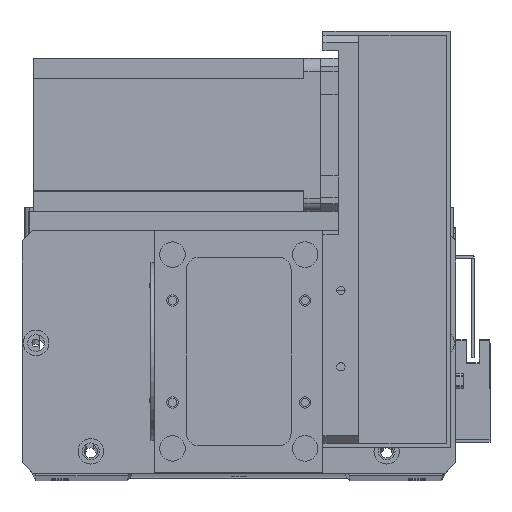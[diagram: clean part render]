
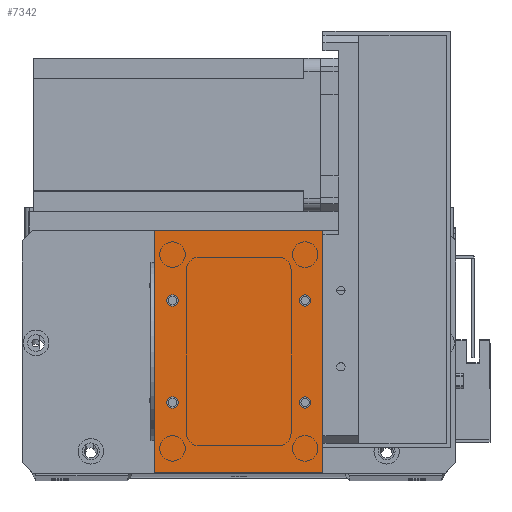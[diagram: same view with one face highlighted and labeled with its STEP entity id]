
A CAD part, top view. The second image highlights one B-rep face of the part: STEP entity #7342.
In plain terms, the highlighted planar face has unit normal (0, 0, 1).
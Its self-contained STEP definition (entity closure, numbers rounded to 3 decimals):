
#63 = DIRECTION ( 'NONE',  ( 0., 0., 1. ) ) ;
#275 = FACE_BOUND ( 'NONE', #9237, .T. ) ;
#356 = DIRECTION ( 'NONE',  ( 0., 0., 1. ) ) ;
#433 = VERTEX_POINT ( 'NONE', #22780 ) ;
#542 = DIRECTION ( 'NONE',  ( 1., 0., 0. ) ) ;
#933 = EDGE_LOOP ( 'NONE', ( #17493, #8584 ) ) ;
#1317 = CIRCLE ( 'NONE', #16807, 2.25 ) ;
#2021 = AXIS2_PLACEMENT_3D ( 'NONE', #31445, #16767, #2066 ) ;
#2066 = DIRECTION ( 'NONE',  ( 1., 0., 0. ) ) ;
#2483 = CARTESIAN_POINT ( 'NONE',  ( 66., 0., 2. ) ) ;
#2764 = CARTESIAN_POINT ( 'NONE',  ( 4.75, 27.5, 2. ) ) ;
#2843 = DIRECTION ( 'NONE',  ( 0., 0., -1. ) ) ;
#3187 = EDGE_LOOP ( 'NONE', ( #19373, #19758, #8711, #29259 ) ) ;
#4142 = CARTESIAN_POINT ( 'NONE',  ( 4.75, 67.5, 2. ) ) ;
#4764 = VECTOR ( 'NONE', #29544, 1000. ) ;
#5289 = FACE_BOUND ( 'NONE', #29976, .T. ) ;
#5395 = CIRCLE ( 'NONE', #16953, 2.25 ) ;
#5478 = VECTOR ( 'NONE', #11127, 1000. ) ;
#5760 = CARTESIAN_POINT ( 'NONE',  ( 66., 95., 2. ) ) ;
#5805 = VERTEX_POINT ( 'NONE', #5760 ) ;
#5892 = CIRCLE ( 'NONE', #28417, 2.25 ) ;
#6346 = CIRCLE ( 'NONE', #7004, 2.25 ) ;
#6362 = CIRCLE ( 'NONE', #13406, 2.25 ) ;
#6666 = ORIENTED_EDGE ( 'NONE', *, *, #18171, .F. ) ;
#6824 = EDGE_CURVE ( 'NONE', #10485, #9965, #1317, .T. ) ;
#6989 = CARTESIAN_POINT ( 'NONE',  ( 0., 0., 2. ) ) ;
#7004 = AXIS2_PLACEMENT_3D ( 'NONE', #26984, #12329, #29454 ) ;
#7097 = CARTESIAN_POINT ( 'NONE',  ( 9.25, 67.5, 2. ) ) ;
#7205 = ORIENTED_EDGE ( 'NONE', *, *, #29908, .F. ) ;
#7342 = ADVANCED_FACE ( 'NONE', ( #275, #18343, #19091, #5289, #30598 ), #12657, .F. ) ;
#7617 = CARTESIAN_POINT ( 'NONE',  ( 66., 0., 2. ) ) ;
#7773 = EDGE_LOOP ( 'NONE', ( #11160, #7205 ) ) ;
#7887 = DIRECTION ( 'NONE',  ( 0., 0., 1. ) ) ;
#8038 = CARTESIAN_POINT ( 'NONE',  ( 0., 0., 2. ) ) ;
#8584 = ORIENTED_EDGE ( 'NONE', *, *, #24360, .F. ) ;
#8711 = ORIENTED_EDGE ( 'NONE', *, *, #19417, .T. ) ;
#8933 = VERTEX_POINT ( 'NONE', #27188 ) ;
#9170 = DIRECTION ( 'NONE',  ( 0., 0., 1. ) ) ;
#9237 = EDGE_LOOP ( 'NONE', ( #6666, #30938 ) ) ;
#9268 = LINE ( 'NONE', #6989, #29589 ) ;
#9553 = CARTESIAN_POINT ( 'NONE',  ( 61.25, 27.5, 2. ) ) ;
#9965 = VERTEX_POINT ( 'NONE', #7097 ) ;
#10187 = VECTOR ( 'NONE', #20325, 1000. ) ;
#10485 = VERTEX_POINT ( 'NONE', #4142 ) ;
#10769 = EDGE_CURVE ( 'NONE', #21287, #21212, #5892, .T. ) ;
#11012 = EDGE_CURVE ( 'NONE', #5805, #24824, #18529, .T. ) ;
#11127 = DIRECTION ( 'NONE',  ( -1., 0., 0. ) ) ;
#11160 = ORIENTED_EDGE ( 'NONE', *, *, #19370, .F. ) ;
#11997 = EDGE_CURVE ( 'NONE', #21212, #21287, #23127, .T. ) ;
#12329 = DIRECTION ( 'NONE',  ( 0., 0., 1. ) ) ;
#12657 = PLANE ( 'NONE',  #17228 ) ;
#13406 = AXIS2_PLACEMENT_3D ( 'NONE', #13828, #30948, #16262 ) ;
#13828 = CARTESIAN_POINT ( 'NONE',  ( 59., 27.5, 2. ) ) ;
#14453 = EDGE_CURVE ( 'NONE', #24824, #29912, #9268, .T. ) ;
#14819 = CARTESIAN_POINT ( 'NONE',  ( 7., 67.5, 2. ) ) ;
#14826 = VERTEX_POINT ( 'NONE', #9553 ) ;
#15105 = CARTESIAN_POINT ( 'NONE',  ( 7., 27.5, 2. ) ) ;
#15275 = DIRECTION ( 'NONE',  ( 0., 0., 1. ) ) ;
#16262 = DIRECTION ( 'NONE',  ( 1., 0., 0. ) ) ;
#16767 = DIRECTION ( 'NONE',  ( 0., 0., 1. ) ) ;
#16807 = AXIS2_PLACEMENT_3D ( 'NONE', #14819, #63, #17240 ) ;
#16953 = AXIS2_PLACEMENT_3D ( 'NONE', #29926, #15275, #542 ) ;
#17228 = AXIS2_PLACEMENT_3D ( 'NONE', #29758, #2843, #20005 ) ;
#17240 = DIRECTION ( 'NONE',  ( 1., 0., 0. ) ) ;
#17493 = ORIENTED_EDGE ( 'NONE', *, *, #28214, .F. ) ;
#17551 = DIRECTION ( 'NONE',  ( 1., 0., 0. ) ) ;
#17844 = LINE ( 'NONE', #7617, #4764 ) ;
#18171 = EDGE_CURVE ( 'NONE', #9965, #10485, #31316, .T. ) ;
#18343 = FACE_BOUND ( 'NONE', #7773, .T. ) ;
#18529 = LINE ( 'NONE', #25802, #5478 ) ;
#19091 = FACE_BOUND ( 'NONE', #933, .T. ) ;
#19370 = EDGE_CURVE ( 'NONE', #8933, #433, #6346, .T. ) ;
#19373 = ORIENTED_EDGE ( 'NONE', *, *, #14453, .T. ) ;
#19417 = EDGE_CURVE ( 'NONE', #29848, #5805, #17844, .T. ) ;
#19758 = ORIENTED_EDGE ( 'NONE', *, *, #24608, .T. ) ;
#20005 = DIRECTION ( 'NONE',  ( -1., 0., 0. ) ) ;
#20253 = CARTESIAN_POINT ( 'NONE',  ( 9.25, 27.5, 2. ) ) ;
#20325 = DIRECTION ( 'NONE',  ( 1., 0., 0. ) ) ;
#20485 = VERTEX_POINT ( 'NONE', #26097 ) ;
#21187 = CARTESIAN_POINT ( 'NONE',  ( 0., 95., 2. ) ) ;
#21212 = VERTEX_POINT ( 'NONE', #2764 ) ;
#21287 = VERTEX_POINT ( 'NONE', #20253 ) ;
#22598 = CARTESIAN_POINT ( 'NONE',  ( 59., 27.5, 2. ) ) ;
#22671 = ORIENTED_EDGE ( 'NONE', *, *, #10769, .F. ) ;
#22780 = CARTESIAN_POINT ( 'NONE',  ( 56.75, 67.5, 2. ) ) ;
#23127 = CIRCLE ( 'NONE', #25999, 2.25 ) ;
#23251 = LINE ( 'NONE', #8038, #10187 ) ;
#23889 = CARTESIAN_POINT ( 'NONE',  ( 7., 27.5, 2. ) ) ;
#23960 = CIRCLE ( 'NONE', #24558, 2.25 ) ;
#24169 = DIRECTION ( 'NONE',  ( 0., -1., 0. ) ) ;
#24360 = EDGE_CURVE ( 'NONE', #20485, #14826, #6362, .T. ) ;
#24558 = AXIS2_PLACEMENT_3D ( 'NONE', #22598, #7887, #25034 ) ;
#24608 = EDGE_CURVE ( 'NONE', #29912, #29848, #23251, .T. ) ;
#24824 = VERTEX_POINT ( 'NONE', #21187 ) ;
#25034 = DIRECTION ( 'NONE',  ( 1., 0., 0. ) ) ;
#25802 = CARTESIAN_POINT ( 'NONE',  ( 0., 95., 2. ) ) ;
#25999 = AXIS2_PLACEMENT_3D ( 'NONE', #23889, #9170, #26328 ) ;
#26097 = CARTESIAN_POINT ( 'NONE',  ( 56.75, 27.5, 2. ) ) ;
#26328 = DIRECTION ( 'NONE',  ( 1., 0., 0. ) ) ;
#26984 = CARTESIAN_POINT ( 'NONE',  ( 59., 67.5, 2. ) ) ;
#27188 = CARTESIAN_POINT ( 'NONE',  ( 61.25, 67.5, 2. ) ) ;
#27462 = CARTESIAN_POINT ( 'NONE',  ( 0., 0., 2. ) ) ;
#28214 = EDGE_CURVE ( 'NONE', #14826, #20485, #23960, .T. ) ;
#28417 = AXIS2_PLACEMENT_3D ( 'NONE', #15105, #356, #17551 ) ;
#29259 = ORIENTED_EDGE ( 'NONE', *, *, #11012, .T. ) ;
#29454 = DIRECTION ( 'NONE',  ( 1., 0., 0. ) ) ;
#29544 = DIRECTION ( 'NONE',  ( 0., 1., 0. ) ) ;
#29589 = VECTOR ( 'NONE', #24169, 1000. ) ;
#29758 = CARTESIAN_POINT ( 'NONE',  ( 0., 0., 2. ) ) ;
#29848 = VERTEX_POINT ( 'NONE', #2483 ) ;
#29908 = EDGE_CURVE ( 'NONE', #433, #8933, #5395, .T. ) ;
#29912 = VERTEX_POINT ( 'NONE', #27462 ) ;
#29926 = CARTESIAN_POINT ( 'NONE',  ( 59., 67.5, 2. ) ) ;
#29976 = EDGE_LOOP ( 'NONE', ( #22671, #30564 ) ) ;
#30564 = ORIENTED_EDGE ( 'NONE', *, *, #11997, .F. ) ;
#30598 = FACE_OUTER_BOUND ( 'NONE', #3187, .T. ) ;
#30938 = ORIENTED_EDGE ( 'NONE', *, *, #6824, .F. ) ;
#30948 = DIRECTION ( 'NONE',  ( 0., 0., 1. ) ) ;
#31316 = CIRCLE ( 'NONE', #2021, 2.25 ) ;
#31445 = CARTESIAN_POINT ( 'NONE',  ( 7., 67.5, 2. ) ) ;
